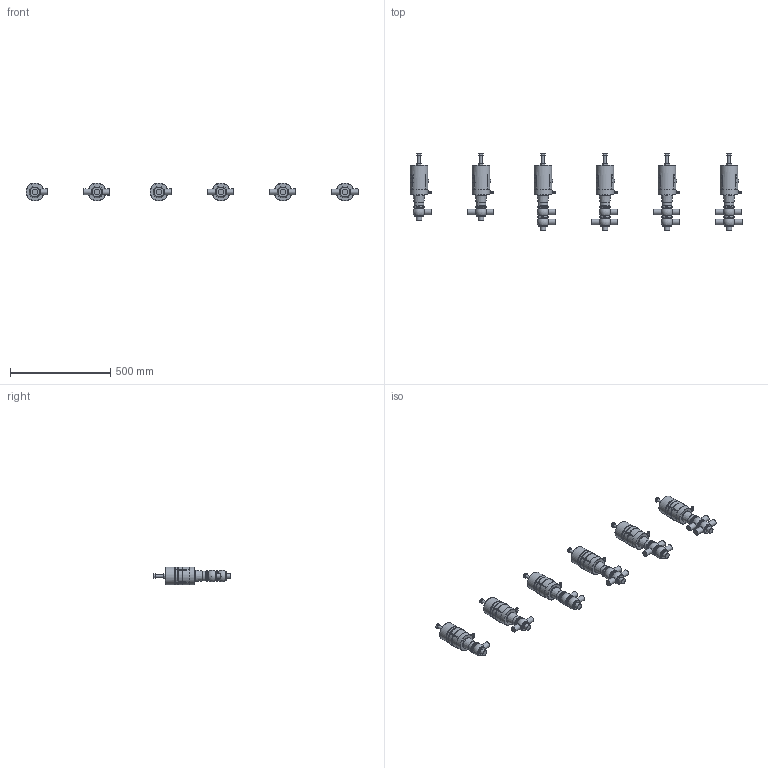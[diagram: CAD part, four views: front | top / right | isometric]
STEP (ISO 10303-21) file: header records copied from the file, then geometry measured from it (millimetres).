
FILE_DESCRIPTION((''),'2;1');
FILE_NAME('\\BV-SRV1\Ufficio tecnico\cad3d\PNEUMATICA\Ing1-1\pne bbzp e derivate\BBZS5\BBZS5-DN025-CIL83-SAL.iam.step','2009-10-19T10:17:41',(''),(''),'Autodesk Inventor 2010','Autodesk Inventor 2010','');
FILE_SCHEMA(('AUTOMOTIVE_DESIGN { 1 0 10303 214 1 1 1 1 }'));
Length unit declared in the file: millimetre
Products named in the file (7): BBZS5-DN025-CIL83-SAL; Assemblaggio-DN025; COR-INF-L-SAL-DN25; COR-INF-T-SAL-DN25; COR-SUP-L-SAL-DN25; COR-SUP-T-SAL-DN25; cil 83  tarabile
Assembly tree (22 placements, depth 2):
  BBZS5-DN025-CIL83-SAL
    Assemblaggio-DN025  x6
    COR-INF-L-SAL-DN25  x3
    COR-INF-T-SAL-DN25  x3
    COR-SUP-L-SAL-DN25  x2
    COR-SUP-T-SAL-DN25  x2
    cil 83  tarabile  x6
Bounding box: 1659.61 x 384.8 x 89.38 mm (x, y, z)
Volume: 7953177.9 mm3; surface area: 699711.9 mm2
Topology: 22 solids, 52 shells, 1308 faces, 3055 edges, 1842 vertices
Faces by surface type: plane 491, cylinder 343, cone 260, bspline 90, sphere 82, torus 42
Full cylindrical faces by diameter (mm): 4.9 x6, 6 x12, 7 x6, 8.3 x6, 10 x6, 11 x6, 11.5 x6, 14 x18, 19.37 x6, 28 x21, 49 x26, 57 x26, 84.813 x18, 86 x12, 86.1 x6, 88.5 x6, 89.5 x6
Entity records: 7342 total; most frequent: CARTESIAN_POINT 1936, DIRECTION 1070, ORIENTED_EDGE 900, AXIS2_PLACEMENT_3D 457, EDGE_CURVE 450, EDGE_LOOP 351, VERTEX_POINT 313, FACE_OUTER_BOUND 247
